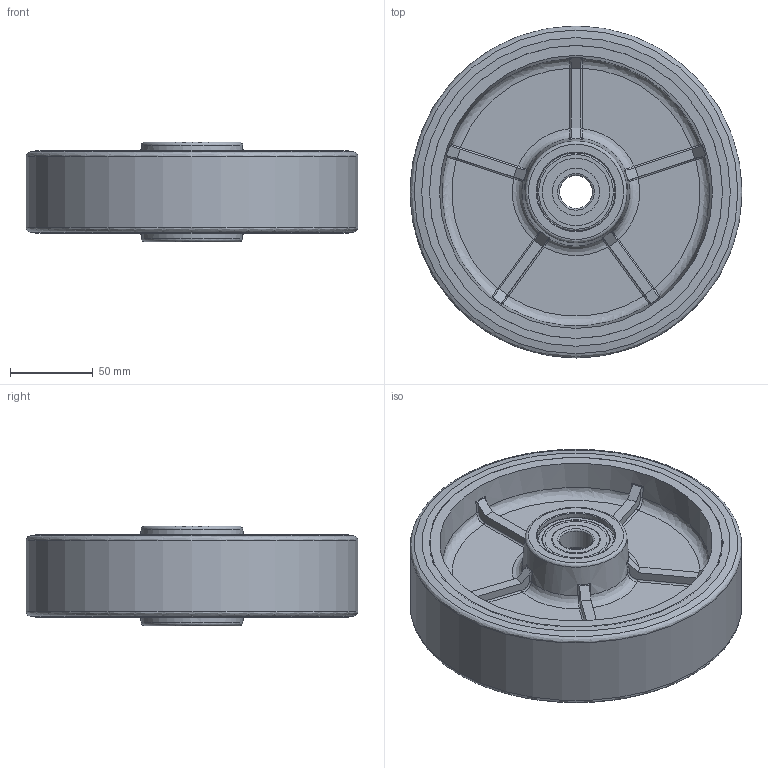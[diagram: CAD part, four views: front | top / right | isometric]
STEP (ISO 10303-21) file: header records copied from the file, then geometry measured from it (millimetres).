
FILE_DESCRIPTION(('STEP AP203'),'2;1');
FILE_NAME('7030CC.stp','2009-12-17T09:30:20',(''),(''),'2008.1.107','THINKDESIGN','');
FILE_SCHEMA(('CONFIG_CONTROL_DESIGN'));
Length unit declared in the file: millimetre
Products named in the file (1): top
Bounding box: 200 x 200 x 60 mm (x, y, z)
Volume: 775868.9 mm3; surface area: 212962.3 mm2
Topology: 29 solids, 29 shells, 357 faces, 945 edges, 625 vertices
Faces by surface type: bspline 170, plane 113, cylinder 74
Full cylindrical faces by diameter (mm): 4.5 x1, 20 x2, 21 x1, 25 x1, 28.5 x6, 29.52 x2, 38.7 x4, 40.6 x6, 47 x4, 200 x1
Entity records: 17729 total; most frequent: CARTESIAN_POINT 9688, ORIENTED_EDGE 1804, DIRECTION 1413, EDGE_CURVE 902, VERTEX_POINT 621, AXIS2_PLACEMENT_3D 592, EDGE_LOOP 393, CIRCLE 384
